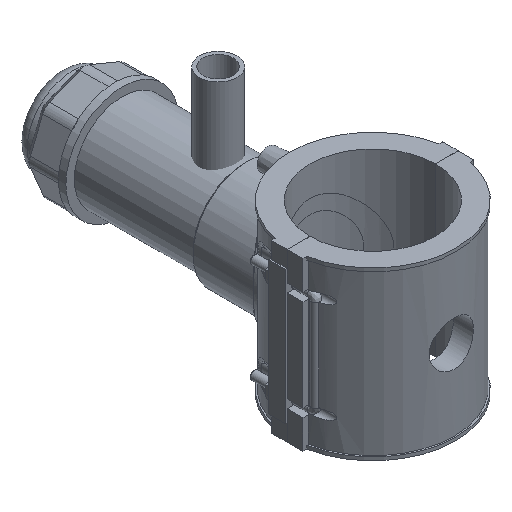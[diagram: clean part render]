
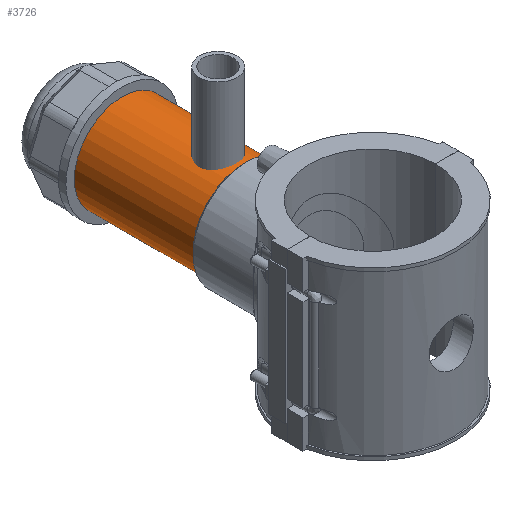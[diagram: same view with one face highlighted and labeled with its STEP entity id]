
A CAD part, isometric view. The second image highlights one B-rep face of the part: STEP entity #3726.
In plain terms, the highlighted cylindrical face has radius 33.928 mm (diameter 67.856 mm), a full revolution.
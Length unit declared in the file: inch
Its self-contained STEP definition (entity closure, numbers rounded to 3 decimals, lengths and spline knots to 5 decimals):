
#317=CIRCLE('',#4055,1.33574);
#318=CIRCLE('',#4056,1.33574);
#333=CIRCLE('',#4087,1.33574);
#334=CIRCLE('',#4088,1.33574);
#548=FACE_OUTER_BOUND('',#774,.T.);
#774=EDGE_LOOP('',(#3440,#3441,#3442,#3443,#3444,#3445));
#1100=LINE('',#7836,#1420);
#1420=VECTOR('',#5091,1.33574);
#1818=VERTEX_POINT('',#7770);
#1819=VERTEX_POINT('',#7771);
#1835=VERTEX_POINT('',#7832);
#1836=VERTEX_POINT('',#7833);
#2345=EDGE_CURVE('',#1818,#1819,#317,.T.);
#2346=EDGE_CURVE('',#1819,#1818,#318,.T.);
#2374=EDGE_CURVE('',#1835,#1836,#333,.T.);
#2375=EDGE_CURVE('',#1836,#1835,#334,.T.);
#2376=EDGE_CURVE('',#1836,#1819,#1100,.T.);
#3440=ORIENTED_EDGE('',*,*,#2374,.F.);
#3441=ORIENTED_EDGE('',*,*,#2375,.F.);
#3442=ORIENTED_EDGE('',*,*,#2376,.T.);
#3443=ORIENTED_EDGE('',*,*,#2346,.T.);
#3444=ORIENTED_EDGE('',*,*,#2345,.T.);
#3445=ORIENTED_EDGE('',*,*,#2376,.F.);
#3525=CYLINDRICAL_SURFACE('',#4086,1.33574);
#3726=ADVANCED_FACE('',(#548),#3525,.T.);
#4055=AXIS2_PLACEMENT_3D('',#7772,#5010,#5011);
#4056=AXIS2_PLACEMENT_3D('',#7773,#5012,#5013);
#4086=AXIS2_PLACEMENT_3D('',#7831,#5085,#5086);
#4087=AXIS2_PLACEMENT_3D('',#7834,#5087,#5088);
#4088=AXIS2_PLACEMENT_3D('',#7835,#5089,#5090);
#5010=DIRECTION('center_axis',(0.,1.,0.));
#5011=DIRECTION('ref_axis',(1.,0.,0.));
#5012=DIRECTION('center_axis',(0.,1.,0.));
#5013=DIRECTION('ref_axis',(1.,0.,0.));
#5085=DIRECTION('center_axis',(0.,1.,0.));
#5086=DIRECTION('ref_axis',(0.,0.,1.));
#5087=DIRECTION('center_axis',(0.,1.,0.));
#5088=DIRECTION('ref_axis',(1.,0.,0.));
#5089=DIRECTION('center_axis',(0.,1.,0.));
#5090=DIRECTION('ref_axis',(1.,0.,0.));
#5091=DIRECTION('',(0.,-1.,0.));
#7770=CARTESIAN_POINT('',(0.,3.5788,1.33574));
#7771=CARTESIAN_POINT('',(0.,3.5788,-1.33574));
#7772=CARTESIAN_POINT('Origin',(0.,3.5788,0.));
#7773=CARTESIAN_POINT('Origin',(0.,3.5788,0.));
#7831=CARTESIAN_POINT('Origin',(0.,5.27618,0.));
#7832=CARTESIAN_POINT('',(0.,6.97356,1.33574));
#7833=CARTESIAN_POINT('',(0.,6.97356,-1.33574));
#7834=CARTESIAN_POINT('Origin',(0.,6.97356,0.));
#7835=CARTESIAN_POINT('Origin',(0.,6.97356,0.));
#7836=CARTESIAN_POINT('',(0.,5.27618,-1.33574));
